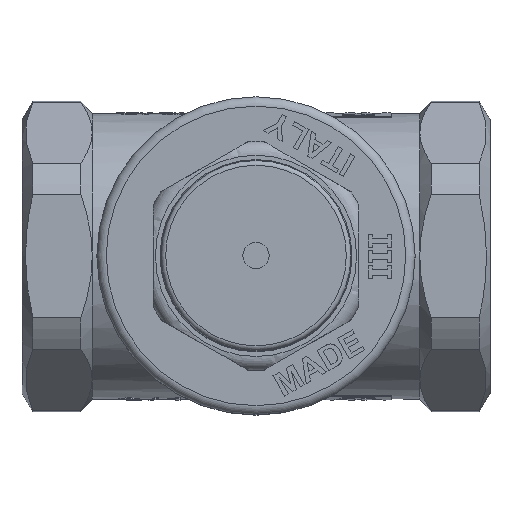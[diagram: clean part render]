
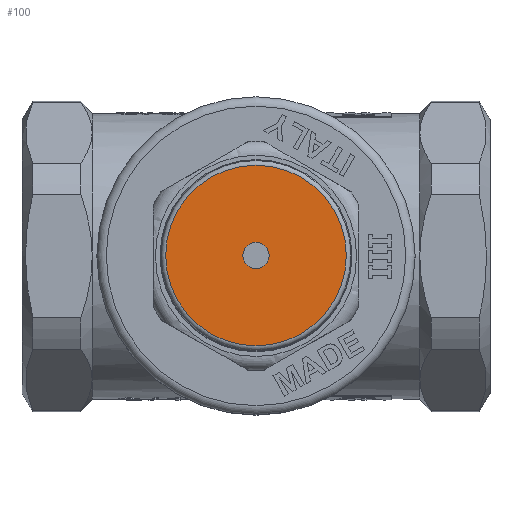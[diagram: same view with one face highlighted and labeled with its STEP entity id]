
A CAD part, top view. The second image highlights one B-rep face of the part: STEP entity #100.
In plain terms, the highlighted planar face has unit normal (0, 0, 1).
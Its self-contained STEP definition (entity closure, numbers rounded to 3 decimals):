
#64=CARTESIAN_POINT('',(0.,0.,54.6));
#65=DIRECTION('',(0.,-0.,1.));
#66=DIRECTION('',(0.,1.,0.));
#67=AXIS2_PLACEMENT_3D('',#64,#65,#66);
#68=PLANE('',#67);
#69=CARTESIAN_POINT('',(0.,9.65,54.6));
#70=VERTEX_POINT('',#69);
#71=CARTESIAN_POINT('',(9.65,0.,54.6));
#72=VERTEX_POINT('',#71);
#73=CARTESIAN_POINT('',(0.,0.,54.6));
#74=DIRECTION('',(-0.,0.,-1.));
#75=DIRECTION('',(1.,-0.,-0.));
#76=AXIS2_PLACEMENT_3D('',#73,#74,#75);
#77=CIRCLE('',#76,9.65);
#78=EDGE_CURVE('',#70,#72,#77,.T.);
#79=ORIENTED_EDGE('',*,*,#78,.F.);
#80=CARTESIAN_POINT('',(0.,0.,54.6));
#81=DIRECTION('',(-0.,0.,-1.));
#82=DIRECTION('',(1.,-0.,-0.));
#83=AXIS2_PLACEMENT_3D('',#80,#81,#82);
#84=CIRCLE('',#83,9.65);
#85=EDGE_CURVE('',#72,#70,#84,.T.);
#86=ORIENTED_EDGE('',*,*,#85,.F.);
#87=EDGE_LOOP('',(#79,#86));
#88=FACE_BOUND('',#87,.T.);
#89=CARTESIAN_POINT('',(-1.4,0.,54.6));
#90=VERTEX_POINT('',#89);
#91=CARTESIAN_POINT('',(0.,0.,54.6));
#92=DIRECTION('',(-0.,0.,-1.));
#93=DIRECTION('',(-1.,0.,0.));
#94=AXIS2_PLACEMENT_3D('',#91,#92,#93);
#95=CIRCLE('',#94,1.4);
#96=EDGE_CURVE('',#90,#90,#95,.T.);
#97=ORIENTED_EDGE('',*,*,#96,.T.);
#98=EDGE_LOOP('',(#97));
#99=FACE_BOUND('',#98,.T.);
#100=ADVANCED_FACE('',(#88,#99),#68,.T.);
